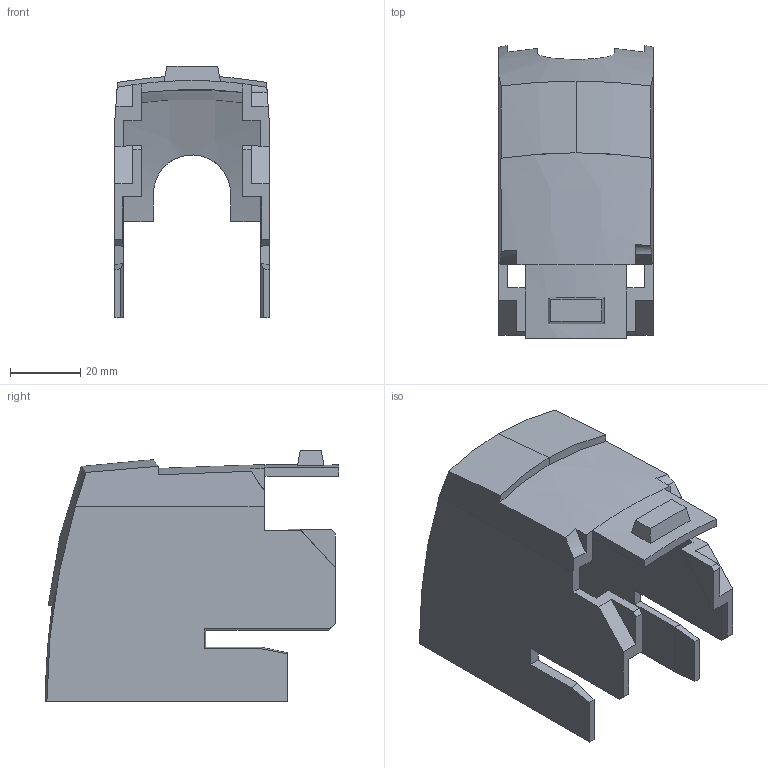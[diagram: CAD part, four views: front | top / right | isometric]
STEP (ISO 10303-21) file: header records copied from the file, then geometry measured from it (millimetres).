
FILE_DESCRIPTION((''),'2;1');
FILE_NAME('10006240547','2022-12-15T15:58:29',('KPawar'),('Rockwell Automation'),'CREO PARAMETRIC BY PTC INC, 2020281','CREO PARAMETRIC BY PTC INC, 2020281','');
FILE_SCHEMA(('CONFIG_CONTROL_DESIGN'));
Length unit declared in the file: millimetre
Products named in the file (1): 10006240547
Bounding box: 44.1 x 83.63 x 71.86 mm (x, y, z)
Volume: 34228.6 mm3; surface area: 27439.3 mm2
Topology: 1 solids, 1 shells, 86 faces, 245 edges, 162 vertices
Faces by surface type: plane 70, cylinder 7, bspline 7, torus 1, extrusion 1
Entity records: 3020 total; most frequent: CARTESIAN_POINT 837, ORIENTED_EDGE 490, DIRECTION 377, EDGE_CURVE 245, VECTOR 171, LINE 170, VERTEX_POINT 162, AXIS2_PLACEMENT_3D 103
